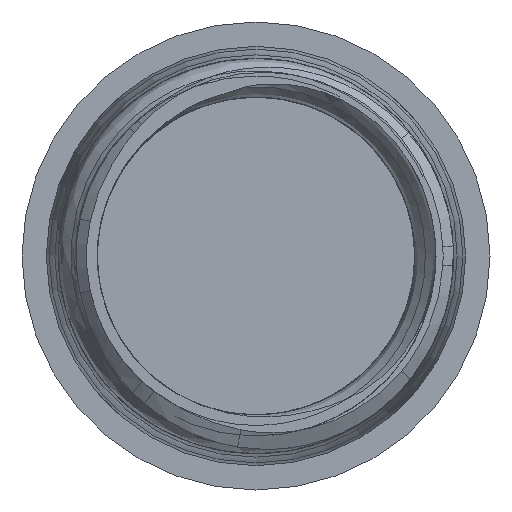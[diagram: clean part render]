
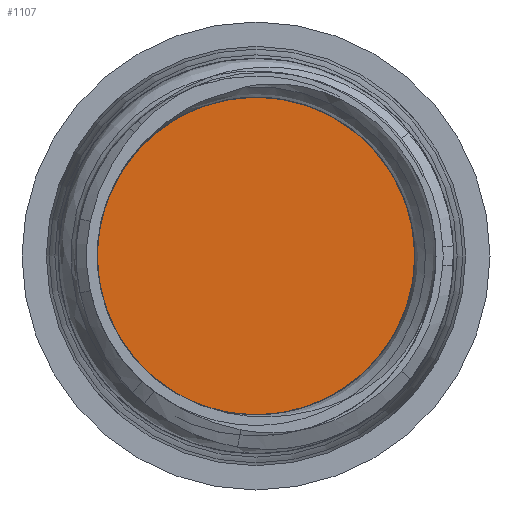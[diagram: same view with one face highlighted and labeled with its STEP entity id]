
A CAD part, front view. The second image highlights one B-rep face of the part: STEP entity #1107.
In plain terms, the highlighted planar face has unit normal (0, -1, 0).
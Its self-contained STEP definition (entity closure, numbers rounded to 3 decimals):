
#30=PLANE('',#1207);
#122=FACE_OUTER_BOUND('',#189,.T.);
#189=EDGE_LOOP('',(#958));
#192=CIRCLE('',#1134,22.5);
#394=VERTEX_POINT('',#1536);
#498=EDGE_CURVE('',#394,#394,#192,.T.);
#958=ORIENTED_EDGE('',*,*,#498,.T.);
#1107=ADVANCED_FACE('',(#122),#30,.T.);
#1134=AXIS2_PLACEMENT_3D('',#1538,#1227,#1228);
#1207=AXIS2_PLACEMENT_3D('',#5751,#1400,#1401);
#1227=DIRECTION('center_axis',(0.,-1.,0.));
#1228=DIRECTION('ref_axis',(1.,0.,0.));
#1400=DIRECTION('center_axis',(0.,-1.,0.));
#1401=DIRECTION('ref_axis',(0.,0.,-1.));
#1536=CARTESIAN_POINT('',(0.,60.,22.5));
#1538=CARTESIAN_POINT('Origin',(0.,60.,0.));
#5751=CARTESIAN_POINT('Origin',(0.,60.,0.));
